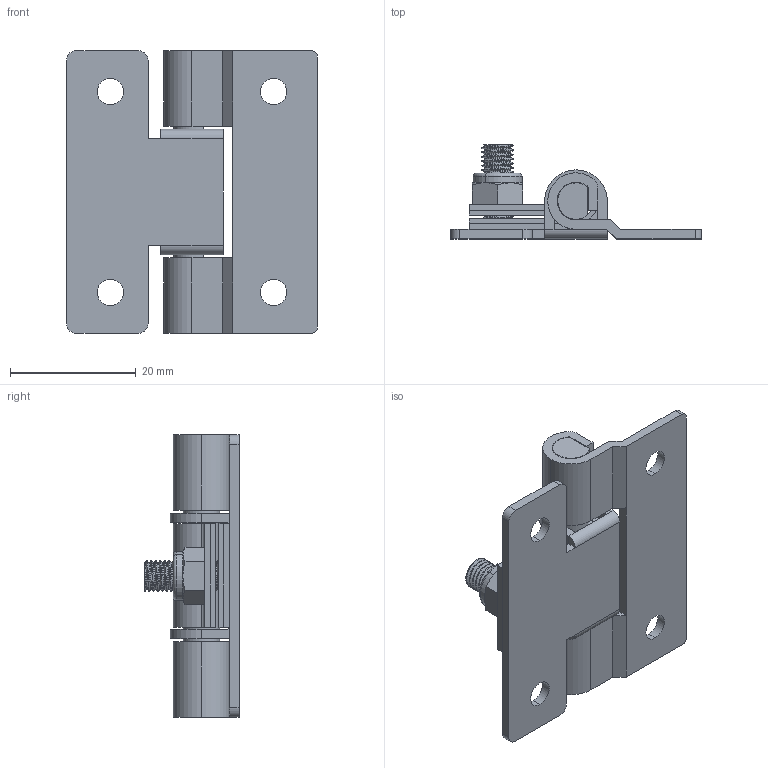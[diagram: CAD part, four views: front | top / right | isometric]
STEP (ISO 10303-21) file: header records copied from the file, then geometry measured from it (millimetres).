
FILE_DESCRIPTION (( 'STEP AP203' ), '1' );
FILE_NAME ('XG11-077-1.STEP', '2023-12-05T02:31:55', ( '' ), ( '' ), 'SwSTEP 2.0', 'SolidWorks 2020', '' );
FILE_SCHEMA (( 'CONFIG_CONTROL_DESIGN' ));
Length unit declared in the file: millimetre
Products named in the file (5): 錨璃2; XG11-077-1; 錨璃3; 錨璃1; M5芮芛蹟譫
Assembly tree (4 placements, depth 2):
  XG11-077-1
    錨璃2
    錨璃1
    錨璃3
    M5芮芛蹟譫
Bounding box: 40 x 15 x 45 mm (x, y, z)
Volume: 5820.9 mm3; surface area: 9623.5 mm2
Topology: 6 solids, 6 shells, 214 faces, 591 edges, 386 vertices
Faces by surface type: cylinder 121, plane 77, bspline 9, cone 5, torus 2
Entity records: 11173 total; most frequent: CARTESIAN_POINT 5436, ORIENTED_EDGE 1182, DIRECTION 1027, EDGE_CURVE 591, VERTEX_POINT 386, AXIS2_PLACEMENT_3D 360, LINE 307, VECTOR 307
